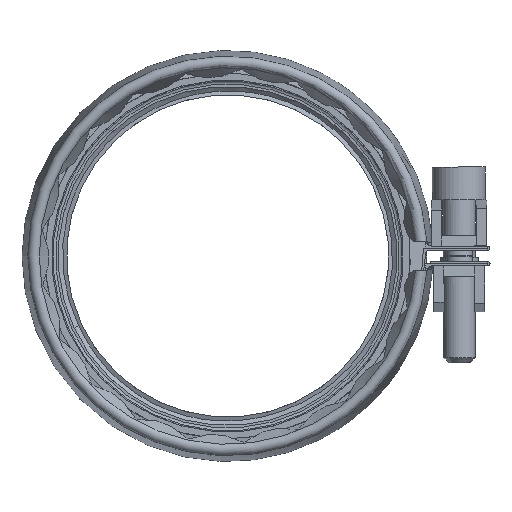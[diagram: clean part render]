
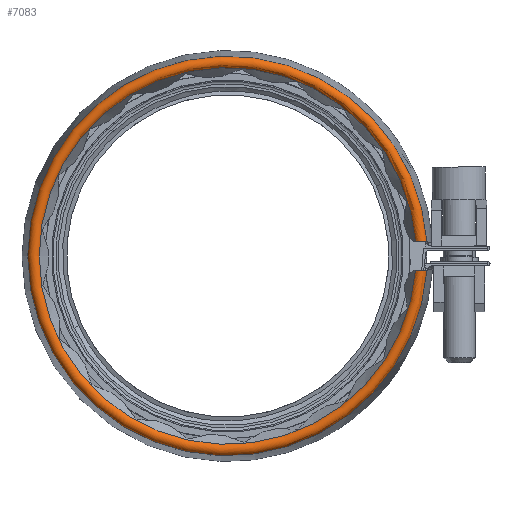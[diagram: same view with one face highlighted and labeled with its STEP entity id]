
A CAD part, left-side view. The second image highlights one B-rep face of the part: STEP entity #7083.
In plain terms, the highlighted toroidal (fillet/blend) face has major radius 47.5 mm and minor radius 1.5 mm.
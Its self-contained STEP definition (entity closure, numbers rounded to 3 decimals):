
#124=TOROIDAL_SURFACE('',#7534,47.5,1.5);
#217=B_SPLINE_CURVE_WITH_KNOTS('',3,(#10799,#10800,#10801,#10802,#10803,
#10804,#10805,#10806,#10807,#10808,#10809,#10810,#10811,#10812,#10813,#10814),
 .UNSPECIFIED.,.F.,.F.,(4,2,2,2,2,2,2,4),(-0.866,-0.834,
-0.779,-0.723,-0.667,-0.612,
-0.556,-0.524),.UNSPECIFIED.);
#221=B_SPLINE_CURVE_WITH_KNOTS('',3,(#10848,#10849,#10850,#10851,#10852,
#10853),.UNSPECIFIED.,.F.,.F.,(4,2,4),(-0.009,-0.005,
0.),.UNSPECIFIED.);
#222=B_SPLINE_CURVE_WITH_KNOTS('',3,(#10859,#10860,#10861,#10862),
 .UNSPECIFIED.,.F.,.F.,(4,4),(0.553,0.562),
 .UNSPECIFIED.);
#223=B_SPLINE_CURVE_WITH_KNOTS('',3,(#10863,#10864,#10865,#10866,#10867,
#10868,#10869,#10870,#10871,#10872,#10873,#10874,#10875,#10876,#10877,#10878),
 .UNSPECIFIED.,.F.,.F.,(4,2,2,2,2,2,2,4),(0.024,0.055,
0.111,0.167,0.222,0.278,
0.334,0.366),.UNSPECIFIED.);
#1494=FACE_OUTER_BOUND('',#1917,.T.);
#1917=EDGE_LOOP('',(#4545,#4546,#4547,#4548,#4549,#4550,#4551));
#2384=CIRCLE('',#7517,48.978);
#2393=CIRCLE('',#7535,46.179);
#2394=CIRCLE('',#7536,46.179);
#2660=VERTEX_POINT('',#10593);
#2661=VERTEX_POINT('',#10598);
#2679=VERTEX_POINT('',#10797);
#2684=VERTEX_POINT('',#10847);
#2685=VERTEX_POINT('',#10854);
#2686=VERTEX_POINT('',#10856);
#2687=VERTEX_POINT('',#10858);
#3392=EDGE_CURVE('',#2661,#2660,#2384,.T.);
#3417=EDGE_CURVE('',#2660,#2679,#217,.T.);
#3423=EDGE_CURVE('',#2679,#2684,#221,.T.);
#3424=EDGE_CURVE('',#2685,#2684,#2393,.T.);
#3425=EDGE_CURVE('',#2686,#2685,#2394,.T.);
#3426=EDGE_CURVE('',#2686,#2687,#222,.T.);
#3427=EDGE_CURVE('',#2661,#2687,#223,.T.);
#4545=ORIENTED_EDGE('',*,*,#3392,.T.);
#4546=ORIENTED_EDGE('',*,*,#3417,.T.);
#4547=ORIENTED_EDGE('',*,*,#3423,.T.);
#4548=ORIENTED_EDGE('',*,*,#3424,.F.);
#4549=ORIENTED_EDGE('',*,*,#3425,.F.);
#4550=ORIENTED_EDGE('',*,*,#3426,.T.);
#4551=ORIENTED_EDGE('',*,*,#3427,.F.);
#7083=ADVANCED_FACE('',(#1494),#124,.T.);
#7517=AXIS2_PLACEMENT_3D('',#10599,#8395,#8396);
#7534=AXIS2_PLACEMENT_3D('',#10846,#8432,#8433);
#7535=AXIS2_PLACEMENT_3D('',#10855,#8434,#8435);
#7536=AXIS2_PLACEMENT_3D('',#10857,#8436,#8437);
#8395=DIRECTION('center_axis',(-1.,0.,0.));
#8396=DIRECTION('ref_axis',(0.,-0.998,0.07));
#8432=DIRECTION('center_axis',(-1.,0.,0.));
#8433=DIRECTION('ref_axis',(0.,1.,0.));
#8434=DIRECTION('center_axis',(-1.,0.,
0.));
#8435=DIRECTION('ref_axis',(0.,1.,0.));
#8436=DIRECTION('center_axis',(-1.,0.,
0.));
#8437=DIRECTION('ref_axis',(0.,-0.997,0.075));
#10593=CARTESIAN_POINT('',(-24.753,158.682,-132.887));
#10598=CARTESIAN_POINT('',(-24.753,158.682,-125.986));
#10599=CARTESIAN_POINT('Origin',(-24.753,207.538,-129.437));
#10797=CARTESIAN_POINT('',(-25.291,161.442,-132.886));
#10799=CARTESIAN_POINT('Ctrl Pts',(-24.753,158.682,-132.887));
#10800=CARTESIAN_POINT('Ctrl Pts',(-24.866,158.701,-132.887));
#10801=CARTESIAN_POINT('Ctrl Pts',(-24.977,158.734,-132.887));
#10802=CARTESIAN_POINT('Ctrl Pts',(-25.245,158.845,-132.887));
#10803=CARTESIAN_POINT('Ctrl Pts',(-25.429,158.969,-132.887));
#10804=CARTESIAN_POINT('Ctrl Pts',(-25.691,159.231,-132.887));
#10805=CARTESIAN_POINT('Ctrl Pts',(-25.815,159.417,-132.887));
#10806=CARTESIAN_POINT('Ctrl Pts',(-25.957,159.76,-132.887));
#10807=CARTESIAN_POINT('Ctrl Pts',(-26.,159.978,-132.887));
#10808=CARTESIAN_POINT('Ctrl Pts',(-26.,160.35,-132.887));
#10809=CARTESIAN_POINT('Ctrl Pts',(-25.957,160.568,-132.887));
#10810=CARTESIAN_POINT('Ctrl Pts',(-25.815,160.912,-132.887));
#10811=CARTESIAN_POINT('Ctrl Pts',(-25.691,161.097,-132.887));
#10812=CARTESIAN_POINT('Ctrl Pts',(-25.484,161.304,-132.887));
#10813=CARTESIAN_POINT('Ctrl Pts',(-25.391,161.38,-132.887));
#10814=CARTESIAN_POINT('Ctrl Pts',(-25.292,161.442,-132.887));
#10846=CARTESIAN_POINT('Origin',(-24.5,207.538,-129.437));
#10847=CARTESIAN_POINT('',(-25.21,161.489,-132.884));
#10848=CARTESIAN_POINT('Ctrl Pts',(-25.291,161.441,-132.884));
#10849=CARTESIAN_POINT('Ctrl Pts',(-25.278,161.45,-132.884));
#10850=CARTESIAN_POINT('Ctrl Pts',(-25.265,161.458,-132.884));
#10851=CARTESIAN_POINT('Ctrl Pts',(-25.237,161.474,-132.884));
#10852=CARTESIAN_POINT('Ctrl Pts',(-25.224,161.481,-132.884));
#10853=CARTESIAN_POINT('Ctrl Pts',(-25.21,161.489,-132.884));
#10854=CARTESIAN_POINT('',(-25.21,253.717,-129.437));
#10855=CARTESIAN_POINT('Origin',(-25.21,207.539,-129.437));
#10856=CARTESIAN_POINT('',(-25.21,161.489,-125.985));
#10857=CARTESIAN_POINT('Origin',(-25.21,207.538,-129.437));
#10858=CARTESIAN_POINT('',(-25.292,161.442,-125.986));
#10859=CARTESIAN_POINT('Ctrl Pts',(-25.21,161.489,-125.985));
#10860=CARTESIAN_POINT('Ctrl Pts',(-25.238,161.474,-125.985));
#10861=CARTESIAN_POINT('Ctrl Pts',(-25.265,161.458,-125.986));
#10862=CARTESIAN_POINT('Ctrl Pts',(-25.292,161.442,-125.986));
#10863=CARTESIAN_POINT('Ctrl Pts',(-24.753,158.682,-125.986));
#10864=CARTESIAN_POINT('Ctrl Pts',(-24.866,158.701,-125.986));
#10865=CARTESIAN_POINT('Ctrl Pts',(-24.977,158.734,-125.986));
#10866=CARTESIAN_POINT('Ctrl Pts',(-25.245,158.845,-125.986));
#10867=CARTESIAN_POINT('Ctrl Pts',(-25.429,158.969,-125.986));
#10868=CARTESIAN_POINT('Ctrl Pts',(-25.691,159.231,-125.986));
#10869=CARTESIAN_POINT('Ctrl Pts',(-25.815,159.417,-125.986));
#10870=CARTESIAN_POINT('Ctrl Pts',(-25.957,159.76,-125.986));
#10871=CARTESIAN_POINT('Ctrl Pts',(-26.,159.978,-125.986));
#10872=CARTESIAN_POINT('Ctrl Pts',(-26.,160.35,-125.986));
#10873=CARTESIAN_POINT('Ctrl Pts',(-25.957,160.568,-125.986));
#10874=CARTESIAN_POINT('Ctrl Pts',(-25.815,160.912,-125.986));
#10875=CARTESIAN_POINT('Ctrl Pts',(-25.691,161.097,-125.986));
#10876=CARTESIAN_POINT('Ctrl Pts',(-25.484,161.304,-125.986));
#10877=CARTESIAN_POINT('Ctrl Pts',(-25.391,161.38,-125.986));
#10878=CARTESIAN_POINT('Ctrl Pts',(-25.292,161.442,-125.986));
